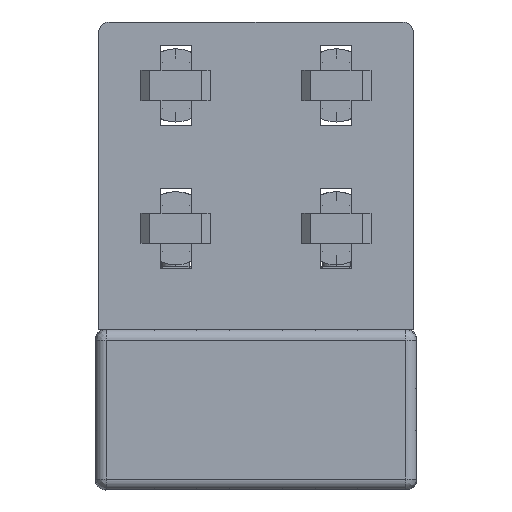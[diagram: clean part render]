
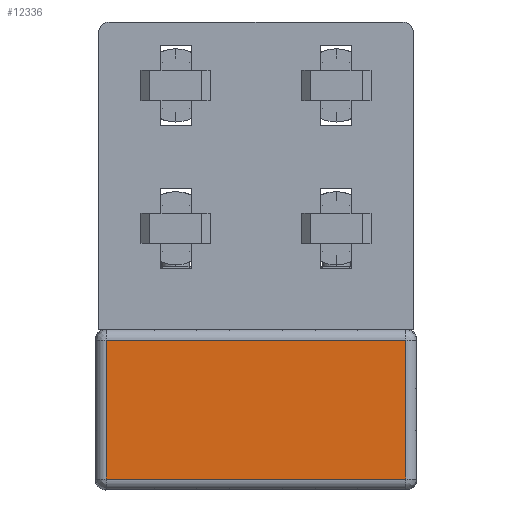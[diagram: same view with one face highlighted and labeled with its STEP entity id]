
A CAD part, left-side view. The second image highlights one B-rep face of the part: STEP entity #12336.
In plain terms, the highlighted planar face has unit normal (-1, 0, 0).
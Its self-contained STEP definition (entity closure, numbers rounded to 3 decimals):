
#256 = LINE ( 'NONE', #11354, #4146 ) ;
#342 = ORIENTED_EDGE ( 'NONE', *, *, #12474, .F. ) ;
#706 = LINE ( 'NONE', #11802, #7799 ) ;
#1408 = ORIENTED_EDGE ( 'NONE', *, *, #10723, .F. ) ;
#1906 = FACE_OUTER_BOUND ( 'NONE', #20507, .T. ) ;
#2521 = CARTESIAN_POINT ( 'NONE',  ( -356.942, -19.836, 19.423 ) ) ;
#4146 = VECTOR ( 'NONE', #22447, 1000. ) ;
#4502 = CARTESIAN_POINT ( 'NONE',  ( -356.942, -19.836, 0. ) ) ;
#4757 = ORIENTED_EDGE ( 'NONE', *, *, #23731, .F. ) ;
#5920 = VERTEX_POINT ( 'NONE', #20665 ) ;
#7799 = VECTOR ( 'NONE', #11981, 1000. ) ;
#9833 = VERTEX_POINT ( 'NONE', #2521 ) ;
#10723 = EDGE_CURVE ( 'NONE', #9833, #11075, #24116, .T. ) ;
#11075 = VERTEX_POINT ( 'NONE', #32638 ) ;
#11354 = CARTESIAN_POINT ( 'NONE',  ( -356.942, 22.086, -19.423 ) ) ;
#11802 = CARTESIAN_POINT ( 'NONE',  ( -356.942, 64.009, 0. ) ) ;
#11981 = DIRECTION ( 'NONE',  ( 0., 0., 1. ) ) ;
#12336 = ADVANCED_FACE ( 'NONE', ( #1906 ), #21368, .F. ) ;
#12474 = EDGE_CURVE ( 'NONE', #11075, #30782, #256, .T. ) ;
#12575 = DIRECTION ( 'NONE',  ( 0., -1., 0. ) ) ;
#14961 = LINE ( 'NONE', #31673, #23492 ) ;
#15191 = VECTOR ( 'NONE', #35041, 1000. ) ;
#15700 = CARTESIAN_POINT ( 'NONE',  ( -356.942, 64.009, -19.423 ) ) ;
#19789 = EDGE_CURVE ( 'NONE', #5920, #9833, #14961, .T. ) ;
#20507 = EDGE_LOOP ( 'NONE', ( #4757, #342, #1408, #24642 ) ) ;
#20665 = CARTESIAN_POINT ( 'NONE',  ( -356.942, 64.009, 19.423 ) ) ;
#21368 = PLANE ( 'NONE',  #32573 ) ;
#22447 = DIRECTION ( 'NONE',  ( 0., 1., 0. ) ) ;
#23492 = VECTOR ( 'NONE', #12575, 1000. ) ;
#23731 = EDGE_CURVE ( 'NONE', #30782, #5920, #706, .T. ) ;
#23737 = CARTESIAN_POINT ( 'NONE',  ( -356.942, 22.086, 0. ) ) ;
#24116 = LINE ( 'NONE', #4502, #15191 ) ;
#24642 = ORIENTED_EDGE ( 'NONE', *, *, #19789, .F. ) ;
#29917 = DIRECTION ( 'NONE',  ( 1., 0., 0. ) ) ;
#30782 = VERTEX_POINT ( 'NONE', #15700 ) ;
#31673 = CARTESIAN_POINT ( 'NONE',  ( -356.942, 22.086, 19.423 ) ) ;
#32465 = DIRECTION ( 'NONE',  ( 0., 0., -1. ) ) ;
#32573 = AXIS2_PLACEMENT_3D ( 'NONE', #23737, #29917, #32465 ) ;
#32638 = CARTESIAN_POINT ( 'NONE',  ( -356.942, -19.836, -19.423 ) ) ;
#35041 = DIRECTION ( 'NONE',  ( 0., 0., -1. ) ) ;
